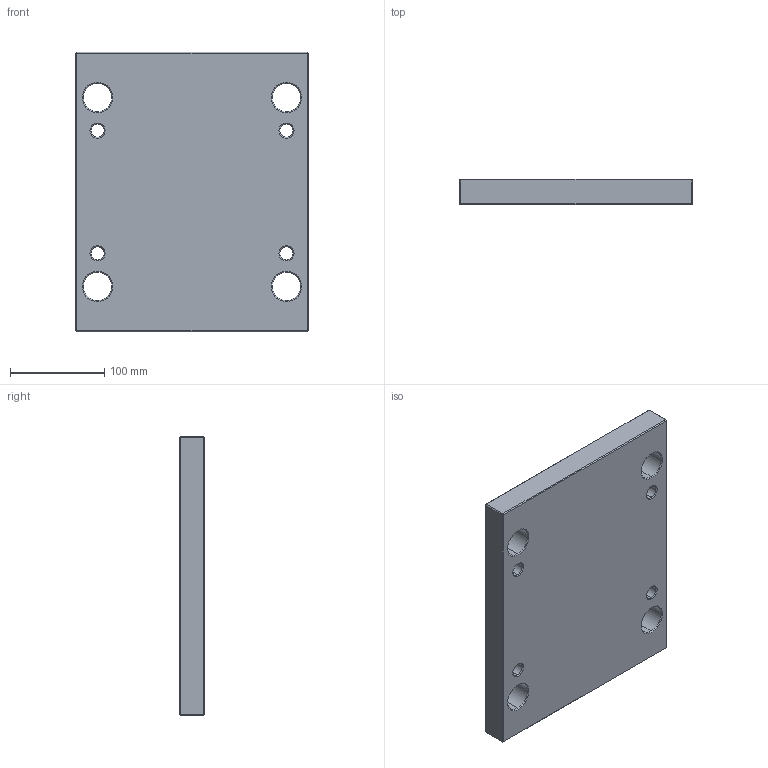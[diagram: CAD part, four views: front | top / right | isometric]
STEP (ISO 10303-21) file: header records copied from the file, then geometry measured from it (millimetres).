
FILE_DESCRIPTION (( 'STEP AP214' ), '1' );
FILE_NAME ('PBAV-EU-246x246x27.STEP', '2020-03-17T19:06:22', ( 'August' ), ( '' ), 'SwSTEP 2.0', 'SolidWorks 2018', '' );
FILE_SCHEMA (( 'AUTOMOTIVE_DESIGN' ));
Length unit declared in the file: millimetre
Products named in the file (1): PBAV-EU-246x246x27
Bounding box: 246 x 27 x 296 mm (x, y, z)
Volume: 1862353.6 mm3; surface area: 181990.7 mm2
Topology: 1 solids, 1 shells, 86 faces, 184 edges, 104 vertices
Faces by surface type: cone 32, plane 30, cylinder 24
Entity records: 2346 total; most frequent: DIRECTION 438, CARTESIAN_POINT 375, ORIENTED_EDGE 368, EDGE_CURVE 184, AXIS2_PLACEMENT_3D 167, EDGE_LOOP 106, VERTEX_POINT 104, VECTOR 104
